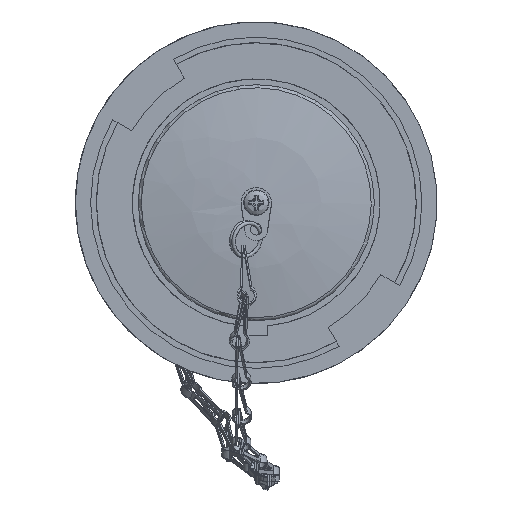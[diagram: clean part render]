
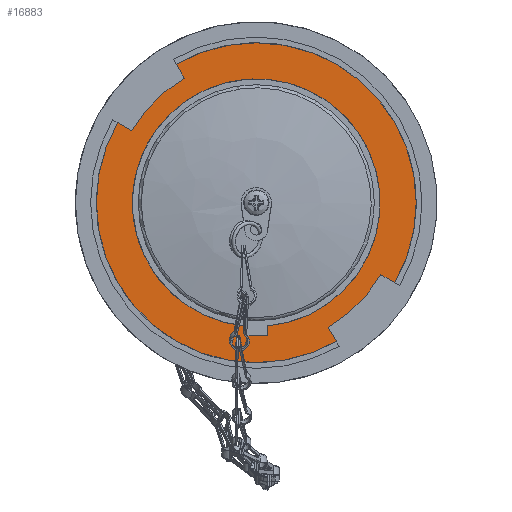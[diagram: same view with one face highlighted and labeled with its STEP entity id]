
A CAD part, front view. The second image highlights one B-rep face of the part: STEP entity #16883.
In plain terms, the highlighted planar face has unit normal (0, -1, 0).
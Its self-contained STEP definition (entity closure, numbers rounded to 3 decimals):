
#16820=CARTESIAN_POINT('',(-42.0,45.0,0.));
#16821=VERTEX_POINT('',#16820);
#16822=CARTESIAN_POINT('',(0.0,45.0,0.0));
#16823=DIRECTION('',(0.0,-1.0,0.0));
#16824=DIRECTION('',(1.0,0.0,0.0));
#16825=AXIS2_PLACEMENT_3D('',#16822,#16823,#16824);
#16826=CIRCLE('',#16825,42.0);
#16827=EDGE_CURVE('',#16821,#16821,#16826,.T.);
#16864=CARTESIAN_POINT('',(0.0,45.0,0.0));
#16865=DIRECTION('',(0.0,-1.0,0.0));
#16866=DIRECTION('',(0.0,0.0,-1.0));
#16867=AXIS2_PLACEMENT_3D('',#16864,#16865,#16866);
#16868=PLANE('',#16867);
#16869=ORIENTED_EDGE('',*,*,#16827,.T.);
#16870=EDGE_LOOP('',(#16869));
#16871=FACE_OUTER_BOUND('',#16870,.T.);
#16872=CARTESIAN_POINT('',(-32.5,45.0,0.));
#16873=VERTEX_POINT('',#16872);
#16874=CARTESIAN_POINT('',(0.0,45.0,0.0));
#16875=DIRECTION('',(0.0,-1.0,0.0));
#16876=DIRECTION('',(1.0,0.0,0.0));
#16877=AXIS2_PLACEMENT_3D('',#16874,#16875,#16876);
#16878=CIRCLE('',#16877,32.5);
#16879=EDGE_CURVE('',#16873,#16873,#16878,.T.);
#16880=ORIENTED_EDGE('',*,*,#16879,.F.);
#16881=EDGE_LOOP('',(#16880));
#16882=FACE_BOUND('',#16881,.T.);
#16883=ADVANCED_FACE('',(#16871,#16882),#16868,.T.);
